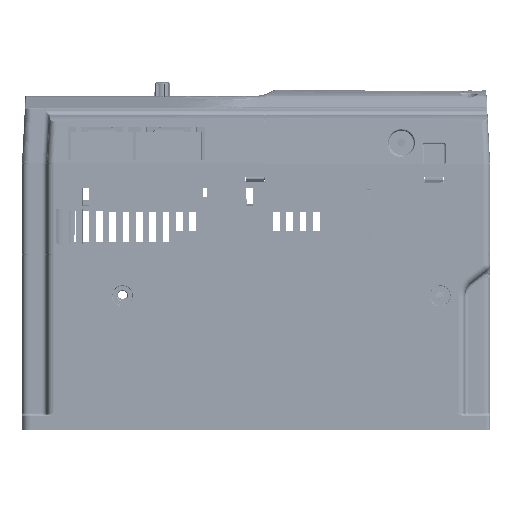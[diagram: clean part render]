
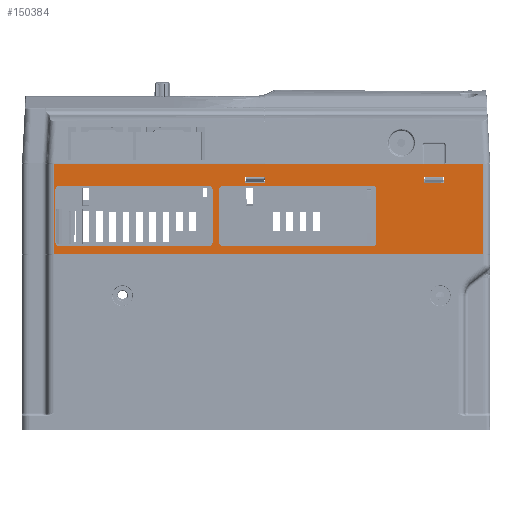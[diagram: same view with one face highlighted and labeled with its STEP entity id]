
A CAD part, left-side view. The second image highlights one B-rep face of the part: STEP entity #150384.
In plain terms, the highlighted planar face has unit normal (-1, 0, -0.008) as drawn and (-1, 0, 0) by its records, which use the part's own axes.
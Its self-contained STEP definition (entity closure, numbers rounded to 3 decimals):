
#108545=DIRECTION('',(0.,0.,-1.));
#108546=VECTOR('',#108545,257.);
#108547=CARTESIAN_POINT('',(-72.5,4.,136.));
#108548=LINE('',#108547,#108546);
#108549=CARTESIAN_POINT('',(-72.5,42.8,-118.));
#108550=DIRECTION('',(-1.,0.,0.));
#108551=DIRECTION('',(0.,1.,0.));
#108552=AXIS2_PLACEMENT_3D('',#108549,#108550,#108551);
#108554=DIRECTION('',(0.,-1.,0.));
#108555=VECTOR('',#108554,32.);
#108556=CARTESIAN_POINT('',(-72.5,42.8,-120.));
#108557=LINE('',#108556,#108555);
#108558=CARTESIAN_POINT('',(-72.5,10.8,-118.));
#108559=DIRECTION('',(-1.,0.,0.));
#108560=DIRECTION('',(0.,0.,-1.));
#108561=AXIS2_PLACEMENT_3D('',#108558,#108559,#108560);
#108563=DIRECTION('',(0.,0.,1.));
#108564=VECTOR('',#108563,90.);
#108565=CARTESIAN_POINT('',(-72.5,8.8,-118.));
#108566=LINE('',#108565,#108564);
#108567=CARTESIAN_POINT('',(-72.5,10.8,-28.));
#108568=DIRECTION('',(-1.,0.,0.));
#108569=DIRECTION('',(0.,-1.,0.));
#108570=AXIS2_PLACEMENT_3D('',#108567,#108568,#108569);
#108572=DIRECTION('',(0.,1.,0.));
#108573=VECTOR('',#108572,32.);
#108574=CARTESIAN_POINT('',(-72.5,10.8,-26.));
#108575=LINE('',#108574,#108573);
#108576=CARTESIAN_POINT('',(-72.5,42.8,-28.));
#108577=DIRECTION('',(-1.,0.,0.));
#108578=DIRECTION('',(0.,0.,1.));
#108579=AXIS2_PLACEMENT_3D('',#108576,#108577,#108578);
#108581=DIRECTION('',(0.,0.,-1.));
#108582=VECTOR('',#108581,90.);
#108583=CARTESIAN_POINT('',(-72.5,44.8,-28.));
#108584=LINE('',#108583,#108582);
#108585=DIRECTION('',(0.,1.,0.));
#108586=VECTOR('',#108585,32.);
#108587=CARTESIAN_POINT('',(-72.5,10.8,72.));
#108588=LINE('',#108587,#108586);
#108589=CARTESIAN_POINT('',(-72.5,42.8,70.));
#108590=DIRECTION('',(-1.,0.,0.));
#108591=DIRECTION('',(0.,0.,1.));
#108592=AXIS2_PLACEMENT_3D('',#108589,#108590,#108591);
#108594=DIRECTION('',(0.,0.,-1.));
#108595=VECTOR('',#108594,90.);
#108596=CARTESIAN_POINT('',(-72.5,44.8,70.));
#108597=LINE('',#108596,#108595);
#108598=CARTESIAN_POINT('',(-72.5,42.8,-20.));
#108599=DIRECTION('',(-1.,0.,0.));
#108600=DIRECTION('',(0.,1.,0.));
#108601=AXIS2_PLACEMENT_3D('',#108598,#108599,#108600);
#108603=DIRECTION('',(0.,-1.,0.));
#108604=VECTOR('',#108603,32.);
#108605=CARTESIAN_POINT('',(-72.5,42.8,-22.));
#108606=LINE('',#108605,#108604);
#108607=CARTESIAN_POINT('',(-72.5,10.8,-20.));
#108608=DIRECTION('',(-1.,0.,0.));
#108609=DIRECTION('',(0.,0.,-1.));
#108610=AXIS2_PLACEMENT_3D('',#108607,#108608,#108609);
#108612=DIRECTION('',(0.,0.,1.));
#108613=VECTOR('',#108612,90.);
#108614=CARTESIAN_POINT('',(-72.5,8.8,-20.));
#108615=LINE('',#108614,#108613);
#108616=CARTESIAN_POINT('',(-72.5,10.8,70.));
#108617=DIRECTION('',(-1.,0.,0.));
#108618=DIRECTION('',(0.,-1.,0.));
#108619=AXIS2_PLACEMENT_3D('',#108616,#108617,#108618);
#108621=DIRECTION('',(0.,0.,1.));
#108622=VECTOR('',#108621,12.);
#108623=CARTESIAN_POINT('',(-72.5,46.8,-6.531));
#108624=LINE('',#108623,#108622);
#108625=DIRECTION('',(0.,1.,0.));
#108626=VECTOR('',#108625,3.434);
#108627=CARTESIAN_POINT('',(-72.5,46.8,5.469));
#108628=LINE('',#108627,#108626);
#108629=DIRECTION('',(0.,0.,-1.));
#108630=VECTOR('',#108629,12.);
#108631=CARTESIAN_POINT('',(-72.5,50.234,5.469));
#108632=LINE('',#108631,#108630);
#108633=DIRECTION('',(0.,-1.,0.));
#108634=VECTOR('',#108633,3.434);
#108635=CARTESIAN_POINT('',(-72.5,50.234,-6.531));
#108636=LINE('',#108635,#108634);
#108637=DIRECTION('',(0.,0.,1.));
#108638=VECTOR('',#108637,12.);
#108639=CARTESIAN_POINT('',(-72.5,46.8,100.5));
#108640=LINE('',#108639,#108638);
#108641=DIRECTION('',(0.,1.,0.));
#108642=VECTOR('',#108641,3.434);
#108643=CARTESIAN_POINT('',(-72.5,46.8,112.5));
#108644=LINE('',#108643,#108642);
#108645=DIRECTION('',(0.,0.,-1.));
#108646=VECTOR('',#108645,12.);
#108647=CARTESIAN_POINT('',(-72.5,50.234,112.5));
#108648=LINE('',#108647,#108646);
#108649=DIRECTION('',(0.,-1.,0.));
#108650=VECTOR('',#108649,3.434);
#108651=CARTESIAN_POINT('',(-72.5,50.234,100.5));
#108652=LINE('',#108651,#108650);
#129046=DIRECTION('',(0.,0.,-1.));
#129047=VECTOR('',#129046,257.);
#129048=CARTESIAN_POINT('',(-72.5,58.,136.));
#129049=LINE('',#129048,#129047);
#129715=DIRECTION('',(0.,1.,0.));
#129716=VECTOR('',#129715,54.);
#129717=CARTESIAN_POINT('',(-72.5,4.,136.));
#129718=LINE('',#129717,#129716);
#129727=DIRECTION('',(0.,-1.,0.));
#129728=VECTOR('',#129727,54.);
#129729=CARTESIAN_POINT('',(-72.5,58.,-121.));
#129730=LINE('',#129729,#129728);
#140542=CARTESIAN_POINT('',(-72.5,4.,136.));
#140543=CARTESIAN_POINT('',(-72.5,4.,-121.));
#140544=VERTEX_POINT('',#140542);
#140545=VERTEX_POINT('',#140543);
#140546=CARTESIAN_POINT('',(-72.5,58.,-121.));
#140547=VERTEX_POINT('',#140546);
#140548=CARTESIAN_POINT('',(-72.5,58.,136.));
#140549=VERTEX_POINT('',#140548);
#140550=CARTESIAN_POINT('',(-72.5,44.8,-118.));
#140551=CARTESIAN_POINT('',(-72.5,42.8,-120.));
#140552=VERTEX_POINT('',#140550);
#140553=VERTEX_POINT('',#140551);
#140554=CARTESIAN_POINT('',(-72.5,10.8,-120.));
#140555=VERTEX_POINT('',#140554);
#140556=CARTESIAN_POINT('',(-72.5,8.8,-118.));
#140557=VERTEX_POINT('',#140556);
#140558=CARTESIAN_POINT('',(-72.5,8.8,-28.));
#140559=VERTEX_POINT('',#140558);
#140560=CARTESIAN_POINT('',(-72.5,10.8,-26.));
#140561=VERTEX_POINT('',#140560);
#140562=CARTESIAN_POINT('',(-72.5,42.8,-26.));
#140563=VERTEX_POINT('',#140562);
#140564=CARTESIAN_POINT('',(-72.5,44.8,-28.));
#140565=VERTEX_POINT('',#140564);
#140566=CARTESIAN_POINT('',(-72.5,10.8,72.));
#140567=CARTESIAN_POINT('',(-72.5,42.8,72.));
#140568=VERTEX_POINT('',#140566);
#140569=VERTEX_POINT('',#140567);
#140570=CARTESIAN_POINT('',(-72.5,44.8,70.));
#140571=VERTEX_POINT('',#140570);
#140572=CARTESIAN_POINT('',(-72.5,44.8,-20.));
#140573=VERTEX_POINT('',#140572);
#140574=CARTESIAN_POINT('',(-72.5,42.8,-22.));
#140575=VERTEX_POINT('',#140574);
#140576=CARTESIAN_POINT('',(-72.5,10.8,-22.));
#140577=VERTEX_POINT('',#140576);
#140578=CARTESIAN_POINT('',(-72.5,8.8,-20.));
#140579=VERTEX_POINT('',#140578);
#140580=CARTESIAN_POINT('',(-72.5,8.8,70.));
#140581=VERTEX_POINT('',#140580);
#140582=CARTESIAN_POINT('',(-72.5,46.8,-6.531));
#140583=CARTESIAN_POINT('',(-72.5,46.8,5.469));
#140584=VERTEX_POINT('',#140582);
#140585=VERTEX_POINT('',#140583);
#140586=CARTESIAN_POINT('',(-72.5,50.234,5.469));
#140587=VERTEX_POINT('',#140586);
#140588=CARTESIAN_POINT('',(-72.5,50.234,-6.531));
#140589=VERTEX_POINT('',#140588);
#140590=CARTESIAN_POINT('',(-72.5,46.8,100.5));
#140591=CARTESIAN_POINT('',(-72.5,46.8,112.5));
#140592=VERTEX_POINT('',#140590);
#140593=VERTEX_POINT('',#140591);
#140594=CARTESIAN_POINT('',(-72.5,50.234,112.5));
#140595=VERTEX_POINT('',#140594);
#140596=CARTESIAN_POINT('',(-72.5,50.234,100.5));
#140597=VERTEX_POINT('',#140596);
#150313=CARTESIAN_POINT('',(-72.5,-85.,-140.));
#150314=DIRECTION('',(-1.,0.,0.));
#150315=DIRECTION('',(0.,0.,1.));
#150316=AXIS2_PLACEMENT_3D('',#150313,#150314,#150315);
#150317=PLANE('',#150316);
#150319=ORIENTED_EDGE('',*,*,#150318,.T.);
#150321=ORIENTED_EDGE('',*,*,#150320,.F.);
#150323=ORIENTED_EDGE('',*,*,#150322,.F.);
#150325=ORIENTED_EDGE('',*,*,#150324,.F.);
#150326=EDGE_LOOP('',(#150319,#150321,#150323,#150325));
#150327=FACE_OUTER_BOUND('',#150326,.F.);
#150329=ORIENTED_EDGE('',*,*,#150328,.T.);
#150331=ORIENTED_EDGE('',*,*,#150330,.T.);
#150333=ORIENTED_EDGE('',*,*,#150332,.T.);
#150335=ORIENTED_EDGE('',*,*,#150334,.T.);
#150337=ORIENTED_EDGE('',*,*,#150336,.T.);
#150339=ORIENTED_EDGE('',*,*,#150338,.T.);
#150341=ORIENTED_EDGE('',*,*,#150340,.T.);
#150343=ORIENTED_EDGE('',*,*,#150342,.T.);
#150344=EDGE_LOOP('',(#150329,#150331,#150333,#150335,#150337,#150339,#150341,
#150343));
#150345=FACE_BOUND('',#150344,.F.);
#150347=ORIENTED_EDGE('',*,*,#150346,.T.);
#150349=ORIENTED_EDGE('',*,*,#150348,.T.);
#150351=ORIENTED_EDGE('',*,*,#150350,.T.);
#150353=ORIENTED_EDGE('',*,*,#150352,.T.);
#150355=ORIENTED_EDGE('',*,*,#150354,.T.);
#150357=ORIENTED_EDGE('',*,*,#150356,.T.);
#150359=ORIENTED_EDGE('',*,*,#150358,.T.);
#150361=ORIENTED_EDGE('',*,*,#150360,.T.);
#150362=EDGE_LOOP('',(#150347,#150349,#150351,#150353,#150355,#150357,#150359,
#150361));
#150363=FACE_BOUND('',#150362,.F.);
#150365=ORIENTED_EDGE('',*,*,#150364,.T.);
#150367=ORIENTED_EDGE('',*,*,#150366,.T.);
#150369=ORIENTED_EDGE('',*,*,#150368,.T.);
#150371=ORIENTED_EDGE('',*,*,#150370,.T.);
#150372=EDGE_LOOP('',(#150365,#150367,#150369,#150371));
#150373=FACE_BOUND('',#150372,.F.);
#150375=ORIENTED_EDGE('',*,*,#150374,.T.);
#150377=ORIENTED_EDGE('',*,*,#150376,.T.);
#150379=ORIENTED_EDGE('',*,*,#150378,.T.);
#150381=ORIENTED_EDGE('',*,*,#150380,.T.);
#150382=EDGE_LOOP('',(#150375,#150377,#150379,#150381));
#150383=FACE_BOUND('',#150382,.F.);
#150384=ADVANCED_FACE('',(#150327,#150345,#150363,#150373,#150383),#150317,.T.);
#108553=CIRCLE('',#108552,2.);
#108562=CIRCLE('',#108561,2.);
#108571=CIRCLE('',#108570,2.);
#108580=CIRCLE('',#108579,2.);
#108593=CIRCLE('',#108592,2.);
#108602=CIRCLE('',#108601,2.);
#108611=CIRCLE('',#108610,2.);
#108620=CIRCLE('',#108619,2.);
#150318=EDGE_CURVE('',#140544,#140545,#108548,.T.);
#150320=EDGE_CURVE('',#140547,#140545,#129730,.T.);
#150322=EDGE_CURVE('',#140549,#140547,#129049,.T.);
#150324=EDGE_CURVE('',#140544,#140549,#129718,.T.);
#150328=EDGE_CURVE('',#140552,#140553,#108553,.T.);
#150330=EDGE_CURVE('',#140553,#140555,#108557,.T.);
#150332=EDGE_CURVE('',#140555,#140557,#108562,.T.);
#150334=EDGE_CURVE('',#140557,#140559,#108566,.T.);
#150336=EDGE_CURVE('',#140559,#140561,#108571,.T.);
#150338=EDGE_CURVE('',#140561,#140563,#108575,.T.);
#150340=EDGE_CURVE('',#140563,#140565,#108580,.T.);
#150342=EDGE_CURVE('',#140565,#140552,#108584,.T.);
#150346=EDGE_CURVE('',#140568,#140569,#108588,.T.);
#150348=EDGE_CURVE('',#140569,#140571,#108593,.T.);
#150350=EDGE_CURVE('',#140571,#140573,#108597,.T.);
#150352=EDGE_CURVE('',#140573,#140575,#108602,.T.);
#150354=EDGE_CURVE('',#140575,#140577,#108606,.T.);
#150356=EDGE_CURVE('',#140577,#140579,#108611,.T.);
#150358=EDGE_CURVE('',#140579,#140581,#108615,.T.);
#150360=EDGE_CURVE('',#140581,#140568,#108620,.T.);
#150364=EDGE_CURVE('',#140584,#140585,#108624,.T.);
#150366=EDGE_CURVE('',#140585,#140587,#108628,.T.);
#150368=EDGE_CURVE('',#140587,#140589,#108632,.T.);
#150370=EDGE_CURVE('',#140589,#140584,#108636,.T.);
#150374=EDGE_CURVE('',#140592,#140593,#108640,.T.);
#150376=EDGE_CURVE('',#140593,#140595,#108644,.T.);
#150378=EDGE_CURVE('',#140595,#140597,#108648,.T.);
#150380=EDGE_CURVE('',#140597,#140592,#108652,.T.);
